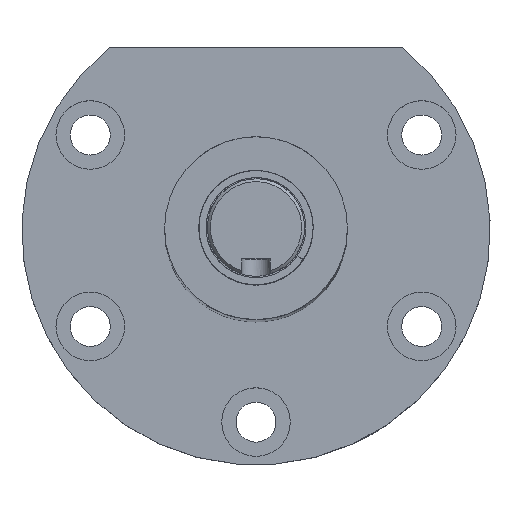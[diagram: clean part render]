
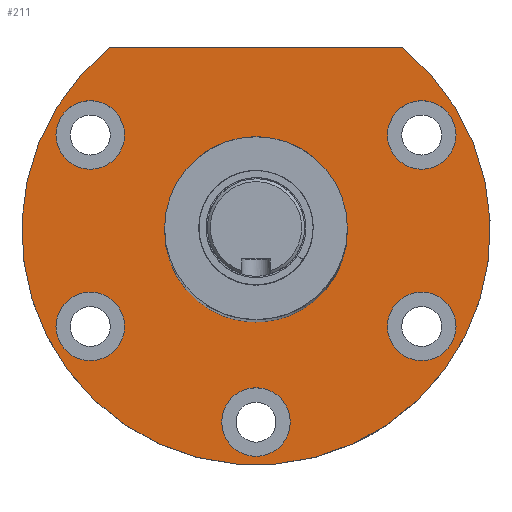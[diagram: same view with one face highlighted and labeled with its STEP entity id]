
A CAD part, top view. The second image highlights one B-rep face of the part: STEP entity #211.
In plain terms, the highlighted planar face has unit normal (0, 0, 1).
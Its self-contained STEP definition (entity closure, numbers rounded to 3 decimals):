
#130=LINE('',#2764,#154);
#154=VECTOR('',#1065,1.);
#211=ADVANCED_FACE('',(#290,#291,#292,#293,#294,#295,#296),#254,.T.);
#254=PLANE('',#891);
#290=FACE_BOUND('',#393,.T.);
#291=FACE_BOUND('',#394,.T.);
#292=FACE_BOUND('',#395,.T.);
#293=FACE_BOUND('',#396,.T.);
#294=FACE_BOUND('',#397,.T.);
#295=FACE_BOUND('',#398,.T.);
#296=FACE_BOUND('',#399,.T.);
#393=EDGE_LOOP('',(#559));
#394=EDGE_LOOP('',(#560));
#395=EDGE_LOOP('',(#561,#562));
#396=EDGE_LOOP('',(#563));
#397=EDGE_LOOP('',(#564));
#398=EDGE_LOOP('',(#565));
#399=EDGE_LOOP('',(#566));
#559=ORIENTED_EDGE('',*,*,#751,.T.);
#560=ORIENTED_EDGE('',*,*,#752,.T.);
#561=ORIENTED_EDGE('',*,*,#753,.F.);
#562=ORIENTED_EDGE('',*,*,#754,.F.);
#563=ORIENTED_EDGE('',*,*,#755,.T.);
#564=ORIENTED_EDGE('',*,*,#756,.T.);
#565=ORIENTED_EDGE('',*,*,#757,.T.);
#566=ORIENTED_EDGE('',*,*,#758,.T.);
#666=VERTEX_POINT('',#2758);
#667=VERTEX_POINT('',#2760);
#668=VERTEX_POINT('',#2762);
#669=VERTEX_POINT('',#2763);
#670=VERTEX_POINT('',#2766);
#671=VERTEX_POINT('',#2768);
#672=VERTEX_POINT('',#2770);
#673=VERTEX_POINT('',#2772);
#751=EDGE_CURVE('',#666,#666,#806,.T.);
#752=EDGE_CURVE('',#667,#667,#807,.T.);
#753=EDGE_CURVE('',#668,#669,#808,.T.);
#754=EDGE_CURVE('',#669,#668,#130,.T.);
#755=EDGE_CURVE('',#670,#670,#809,.T.);
#756=EDGE_CURVE('',#671,#671,#810,.T.);
#757=EDGE_CURVE('',#672,#672,#811,.T.);
#758=EDGE_CURVE('',#673,#673,#812,.T.);
#806=CIRCLE('',#884,6.);
#807=CIRCLE('',#885,6.);
#808=CIRCLE('',#886,41.);
#809=CIRCLE('',#887,16.);
#810=CIRCLE('',#888,6.);
#811=CIRCLE('',#889,6.);
#812=CIRCLE('',#890,6.);
#884=AXIS2_PLACEMENT_3D('',#2757,#1059,#1060);
#885=AXIS2_PLACEMENT_3D('',#2759,#1061,#1062);
#886=AXIS2_PLACEMENT_3D('',#2761,#1063,#1064);
#887=AXIS2_PLACEMENT_3D('',#2765,#1066,#1067);
#888=AXIS2_PLACEMENT_3D('',#2767,#1068,#1069);
#889=AXIS2_PLACEMENT_3D('',#2769,#1070,#1071);
#890=AXIS2_PLACEMENT_3D('',#2771,#1072,#1073);
#891=AXIS2_PLACEMENT_3D('',#2773,#1074,#1075);
#1059=DIRECTION('',(0.,0.,-1.));
#1060=DIRECTION('',(0.,1.,0.));
#1061=DIRECTION('',(0.,0.,-1.));
#1062=DIRECTION('',(0.866,-0.5,0.));
#1063=DIRECTION('',(0.,0.,-1.));
#1064=DIRECTION('',(1.,0.,0.));
#1065=DIRECTION('',(1.,0.,0.));
#1066=DIRECTION('',(0.,0.,-1.));
#1067=DIRECTION('',(1.,0.,0.));
#1068=DIRECTION('',(0.,0.,-1.));
#1069=DIRECTION('',(-0.866,-0.5,0.));
#1070=DIRECTION('',(0.,0.,-1.));
#1071=DIRECTION('',(-0.866,0.5,0.));
#1072=DIRECTION('',(0.,0.,-1.));
#1073=DIRECTION('',(0.866,0.5,0.));
#1074=DIRECTION('',(0.,0.,1.));
#1075=DIRECTION('',(1.,0.,0.));
#2757=CARTESIAN_POINT('',(0.,-33.5,0.));
#2758=CARTESIAN_POINT('',(0.,-27.5,0.));
#2759=CARTESIAN_POINT('',(-29.012,16.75,0.));
#2760=CARTESIAN_POINT('',(-23.816,13.75,0.));
#2761=CARTESIAN_POINT('',(0.,0.,0.));
#2762=CARTESIAN_POINT('',(25.632,32.,0.));
#2763=CARTESIAN_POINT('',(-25.632,32.,0.));
#2764=CARTESIAN_POINT('',(0.,32.,0.));
#2765=CARTESIAN_POINT('',(0.,0.,0.));
#2766=CARTESIAN_POINT('',(16.,0.,0.));
#2767=CARTESIAN_POINT('',(29.012,16.75,0.));
#2768=CARTESIAN_POINT('',(23.816,13.75,0.));
#2769=CARTESIAN_POINT('',(29.012,-16.75,0.));
#2770=CARTESIAN_POINT('',(23.816,-13.75,0.));
#2771=CARTESIAN_POINT('',(-29.012,-16.75,0.));
#2772=CARTESIAN_POINT('',(-23.816,-13.75,0.));
#2773=CARTESIAN_POINT('',(0.,0.,0.));
